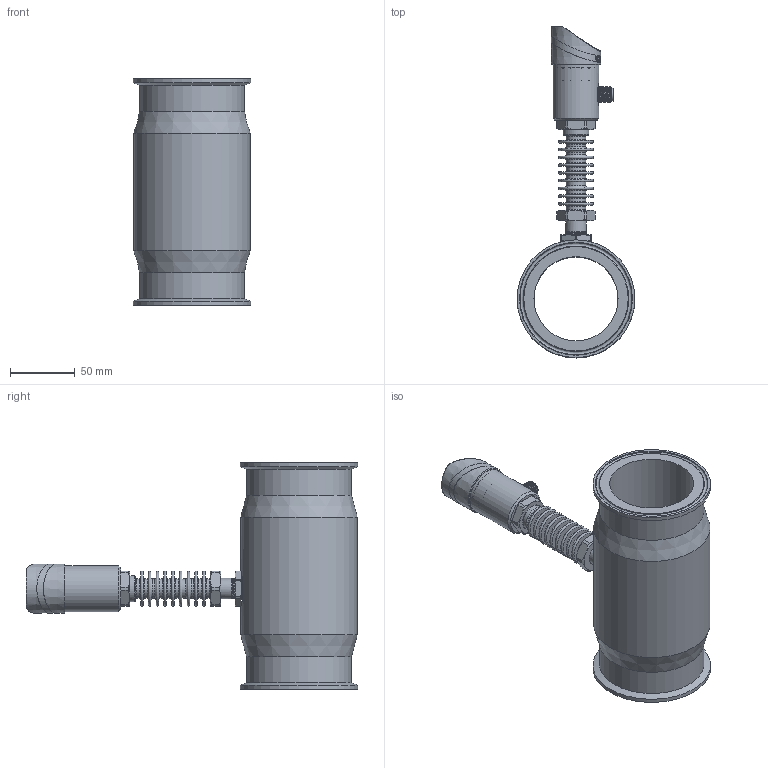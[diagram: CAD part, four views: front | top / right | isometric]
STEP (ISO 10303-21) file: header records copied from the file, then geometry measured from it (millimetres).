
FILE_DESCRIPTION( (''), '2;1');
FILE_NAME( 'QTKE_DN65_tri-clamp_high-temp.step', '2024-10-15T08:14:52+08:00', (''), (''), '', '', '');
FILE_SCHEMA (('AUTOMOTIVE_DESIGN { 1 0 10303 214 3 1 1 1 }'));
Length unit declared in the file: millimetre
Products named in the file (1): QTKE DN65_tri-clamp_high-temp
Bounding box: 91 x 256.5 x 175 mm (x, y, z)
Volume: 500933.8 mm3; surface area: 137453.9 mm2
Topology: 5 solids, 5 shells, 994 faces, 2540 edges, 1646 vertices
Faces by surface type: plane 401, cylinder 172, extrusion 160, cone 115, torus 66, bspline 59, sphere 21
Full cylindrical faces by diameter (mm): 1.689 x1, 2 x1, 2.7 x6, 3.5 x5, 12 x1, 13 x1, 15 x10, 15.9 x1, 16.5 x1, 20 x1, 23 x3, 26 x5, 31.7 x1, 32 x1, 34 x1, 34.2 x1, 35.5 x2, 65 x1, 81 x2, 90 x1, 91 x2
Entity records: 43982 total; most frequent: CARTESIAN_POINT 17228, ORIENTED_EDGE 4658, DIRECTION 4098, EDGE_CURVE 2329, VERTEX_POINT 1583, AXIS2_PLACEMENT_3D 1468, EDGE_LOOP 1242, VECTOR 1162
